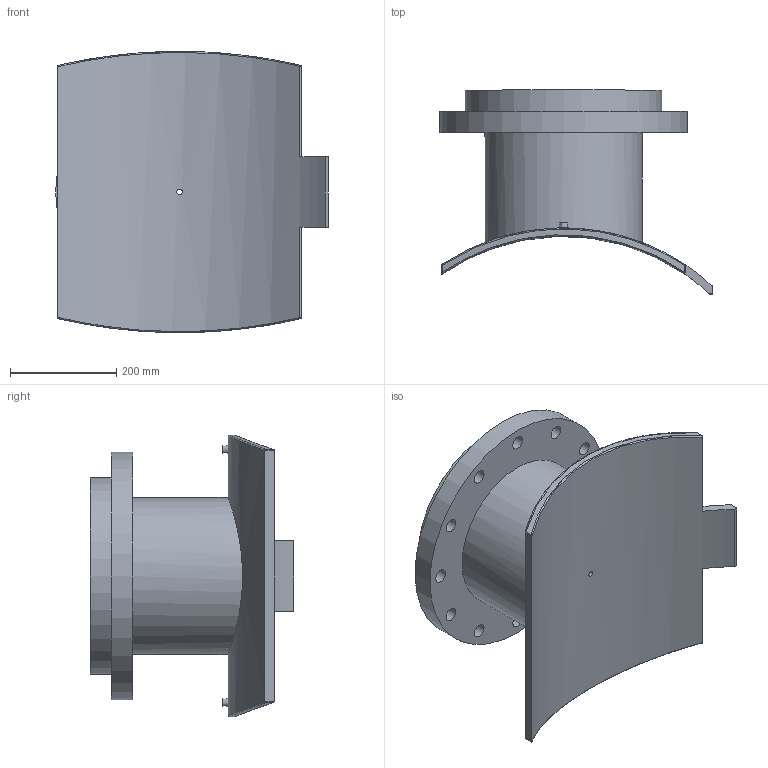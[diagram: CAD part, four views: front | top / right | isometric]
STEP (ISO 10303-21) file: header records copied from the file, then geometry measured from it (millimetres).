
FILE_DESCRIPTION(/* description */ ('PLASSON FLANGED BRANCH SADDLE 800X300'),/* implementation_level */ '2;1');
FILE_NAME(/* name */ 'C:\Dropbox\KIMPROJECTS-Inventor 2019\99-16-3568-Processing\ElectroFusion Fittings\495904_495903\stp\495903800300T.stp',/* time_stamp */ '2024-04-03T21:05:20+02:00',/* author */ ('KIM'),/* organization */ (''),/* preprocessor_version */ 'ST-DEVELOPER v17.2',/* originating_system */ 'Autodesk Inventor 2019',/* authorisation */ '');
FILE_SCHEMA (('AUTOMOTIVE_DESIGN { 1 0 10303 214 3 1 1 }'));
Length unit declared in the file: millimetre
Products named in the file (1): 495903800300T
Bounding box: 514 x 384.15 x 529.84 mm (x, y, z)
Volume: 13886130.7 mm3; surface area: 1299127.1 mm2
Topology: 1 solids, 1 shells, 62 faces, 163 edges, 126 vertices
Faces by surface type: cylinder 35, plane 17, sphere 4, bspline 4, cone 2
Full cylindrical faces by diameter (mm): 4 x2, 10 x2, 10.4 x1, 16 x1, 26 x12, 257 x1, 296 x1, 370 x1, 467 x1
Entity records: 2595 total; most frequent: CARTESIAN_POINT 967, DIRECTION 325, ORIENTED_EDGE 298, EDGE_CURVE 149, AXIS2_PLACEMENT_3D 137, VERTEX_POINT 100, EDGE_LOOP 99, CIRCLE 78
